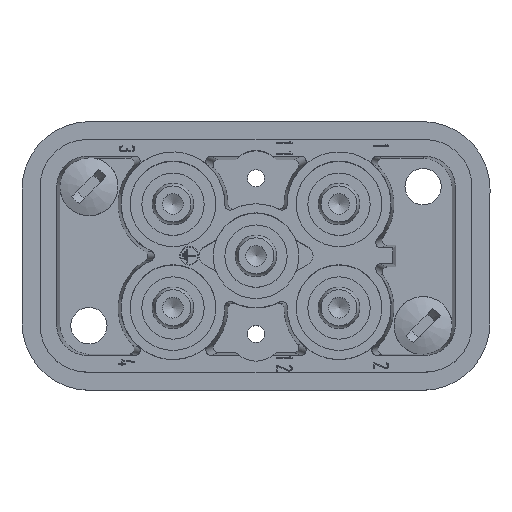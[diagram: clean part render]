
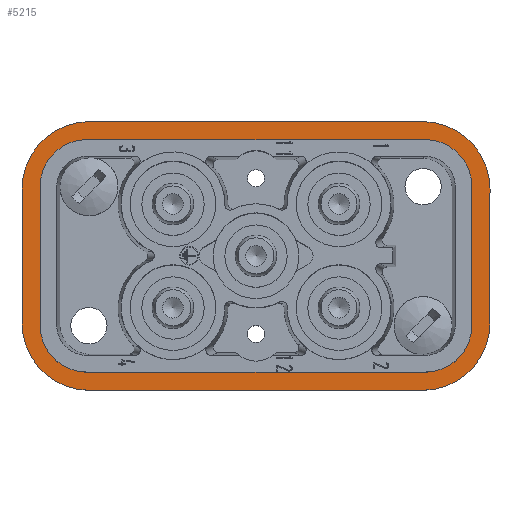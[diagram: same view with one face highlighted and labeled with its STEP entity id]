
A CAD part, top view. The second image highlights one B-rep face of the part: STEP entity #5215.
In plain terms, the highlighted planar face has unit normal (0, 0, 1).
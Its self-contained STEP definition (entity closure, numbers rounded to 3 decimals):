
#5215=ADVANCED_FACE('',(#5998,#5999),#5604,.F.);
#5604=PLANE('',#17857);
#5998=FACE_BOUND('',#6698,.T.);
#5999=FACE_BOUND('',#6699,.T.);
#6698=EDGE_LOOP('',(#9350,#9351,#9352,#9353,#9354,#9355,#9356,#9357));
#6699=EDGE_LOOP('',(#9358,#9359,#9360,#9361,#9362,#9363,#9364,#9365));
#9350=ORIENTED_EDGE('',*,*,#11117,.F.);
#9351=ORIENTED_EDGE('',*,*,#11103,.F.);
#9352=ORIENTED_EDGE('',*,*,#11124,.F.);
#9353=ORIENTED_EDGE('',*,*,#11130,.F.);
#9354=ORIENTED_EDGE('',*,*,#11136,.F.);
#9355=ORIENTED_EDGE('',*,*,#11152,.F.);
#9356=ORIENTED_EDGE('',*,*,#11111,.F.);
#9357=ORIENTED_EDGE('',*,*,#11140,.F.);
#9358=ORIENTED_EDGE('',*,*,#12308,.T.);
#9359=ORIENTED_EDGE('',*,*,#12309,.T.);
#9360=ORIENTED_EDGE('',*,*,#12310,.T.);
#9361=ORIENTED_EDGE('',*,*,#12311,.T.);
#9362=ORIENTED_EDGE('',*,*,#12312,.T.);
#9363=ORIENTED_EDGE('',*,*,#12313,.T.);
#9364=ORIENTED_EDGE('',*,*,#12314,.T.);
#9365=ORIENTED_EDGE('',*,*,#12315,.T.);
#10029=VERTEX_POINT('',#21683);
#10030=VERTEX_POINT('',#21685);
#10036=VERTEX_POINT('',#21700);
#10038=VERTEX_POINT('',#21703);
#10042=VERTEX_POINT('',#21715);
#10046=VERTEX_POINT('',#21727);
#10050=VERTEX_POINT('',#21739);
#10054=VERTEX_POINT('',#21751);
#10866=VERTEX_POINT('',#25808);
#10867=VERTEX_POINT('',#25809);
#10868=VERTEX_POINT('',#25811);
#10869=VERTEX_POINT('',#25813);
#10870=VERTEX_POINT('',#25815);
#10871=VERTEX_POINT('',#25817);
#10872=VERTEX_POINT('',#25819);
#10873=VERTEX_POINT('',#25821);
#11103=EDGE_CURVE('',#10029,#10030,#14029,.T.);
#11111=EDGE_CURVE('',#10036,#10038,#12969,.T.);
#11117=EDGE_CURVE('',#10030,#10042,#12973,.T.);
#11124=EDGE_CURVE('',#10046,#10029,#12977,.T.);
#11130=EDGE_CURVE('',#10050,#10046,#14044,.T.);
#11136=EDGE_CURVE('',#10054,#10050,#12981,.T.);
#11140=EDGE_CURVE('',#10042,#10036,#14050,.T.);
#11152=EDGE_CURVE('',#10038,#10054,#14062,.T.);
#12308=EDGE_CURVE('',#10866,#10867,#13251,.T.);
#12309=EDGE_CURVE('',#10867,#10868,#14705,.T.);
#12310=EDGE_CURVE('',#10868,#10869,#13252,.T.);
#12311=EDGE_CURVE('',#10869,#10870,#14706,.T.);
#12312=EDGE_CURVE('',#10870,#10871,#13253,.T.);
#12313=EDGE_CURVE('',#10871,#10872,#14707,.T.);
#12314=EDGE_CURVE('',#10872,#10873,#13254,.T.);
#12315=EDGE_CURVE('',#10873,#10866,#14708,.T.);
#12969=CIRCLE('',#17171,4.5);
#12973=CIRCLE('',#17177,4.5);
#12977=CIRCLE('',#17183,4.5);
#12981=CIRCLE('',#17191,4.5);
#13251=CIRCLE('',#17853,6.5);
#13252=CIRCLE('',#17854,6.5);
#13253=CIRCLE('',#17855,6.5);
#13254=CIRCLE('',#17856,6.5);
#14029=LINE('',#21684,#15103);
#14044=LINE('',#21741,#15118);
#14050=LINE('',#21759,#15124);
#14062=LINE('',#21781,#15136);
#14705=LINE('',#25810,#15859);
#14706=LINE('',#25814,#15860);
#14707=LINE('',#25818,#15861);
#14708=LINE('',#25822,#15862);
#15103=VECTOR('',#18265,1.);
#15118=VECTOR('',#18320,1.);
#15124=VECTOR('',#18342,1.);
#15136=VECTOR('',#18358,1.);
#15859=VECTOR('',#20395,1.);
#15860=VECTOR('',#20398,1.);
#15861=VECTOR('',#20401,1.);
#15862=VECTOR('',#20404,1.);
#17171=AXIS2_PLACEMENT_3D('',#21702,#18279,#18280);
#17177=AXIS2_PLACEMENT_3D('',#21714,#18293,#18294);
#17183=AXIS2_PLACEMENT_3D('',#21729,#18308,#18309);
#17191=AXIS2_PLACEMENT_3D('',#21753,#18332,#18333);
#17853=AXIS2_PLACEMENT_3D('',#25807,#20393,#20394);
#17854=AXIS2_PLACEMENT_3D('',#25812,#20396,#20397);
#17855=AXIS2_PLACEMENT_3D('',#25816,#20399,#20400);
#17856=AXIS2_PLACEMENT_3D('',#25820,#20402,#20403);
#17857=AXIS2_PLACEMENT_3D('',#25823,#20405,#20406);
#18265=DIRECTION('',(1.,0.,0.));
#18279=DIRECTION('',(0.,0.,1.));
#18280=DIRECTION('',(0.,1.,0.));
#18293=DIRECTION('',(0.,0.,1.));
#18294=DIRECTION('',(0.,1.,0.));
#18308=DIRECTION('',(0.,0.,1.));
#18309=DIRECTION('',(0.,1.,0.));
#18320=DIRECTION('',(0.,-1.,0.));
#18332=DIRECTION('',(0.,0.,1.));
#18333=DIRECTION('',(0.,1.,0.));
#18342=DIRECTION('',(0.,1.,0.));
#18358=DIRECTION('',(-1.,0.,0.));
#20393=DIRECTION('',(0.,0.,1.));
#20394=DIRECTION('',(0.,1.,0.));
#20395=DIRECTION('',(0.,-1.,0.));
#20396=DIRECTION('',(0.,0.,1.));
#20397=DIRECTION('',(-1.,0.,0.));
#20398=DIRECTION('',(1.,0.,0.));
#20399=DIRECTION('',(0.,0.,1.));
#20400=DIRECTION('',(0.,-1.,0.));
#20401=DIRECTION('',(0.,1.,0.));
#20402=DIRECTION('',(0.,0.,1.));
#20403=DIRECTION('',(1.,0.,0.));
#20404=DIRECTION('',(-1.,0.,0.));
#20405=DIRECTION('',(0.,0.,-1.));
#20406=DIRECTION('',(0.,1.,0.));
#21683=CARTESIAN_POINT('',(-16.3,-11.2,11.789));
#21684=CARTESIAN_POINT('',(-16.3,-11.2,11.789));
#21685=CARTESIAN_POINT('',(16.3,-11.2,11.789));
#21700=CARTESIAN_POINT('',(20.8,6.7,11.789));
#21702=CARTESIAN_POINT('',(16.3,6.7,11.789));
#21703=CARTESIAN_POINT('',(16.3,11.2,11.789));
#21714=CARTESIAN_POINT('',(16.3,-6.7,11.789));
#21715=CARTESIAN_POINT('',(20.8,-6.7,11.789));
#21727=CARTESIAN_POINT('',(-20.8,-6.7,11.789));
#21729=CARTESIAN_POINT('',(-16.3,-6.7,11.789));
#21739=CARTESIAN_POINT('',(-20.8,6.7,11.789));
#21741=CARTESIAN_POINT('',(-20.8,6.7,11.789));
#21751=CARTESIAN_POINT('',(-16.3,11.2,11.789));
#21753=CARTESIAN_POINT('',(-16.3,6.7,11.789));
#21759=CARTESIAN_POINT('',(20.8,-6.7,11.789));
#21781=CARTESIAN_POINT('',(16.4,11.2,11.789));
#25807=CARTESIAN_POINT('',(-16.05,6.45,11.789));
#25808=CARTESIAN_POINT('',(-16.05,12.95,11.789));
#25809=CARTESIAN_POINT('',(-22.55,6.45,11.789));
#25810=CARTESIAN_POINT('',(-22.55,6.45,11.789));
#25811=CARTESIAN_POINT('',(-22.55,-6.45,11.789));
#25812=CARTESIAN_POINT('',(-16.05,-6.45,11.789));
#25813=CARTESIAN_POINT('',(-16.05,-12.95,11.789));
#25814=CARTESIAN_POINT('',(-16.05,-12.95,11.789));
#25815=CARTESIAN_POINT('',(16.05,-12.95,11.789));
#25816=CARTESIAN_POINT('',(16.05,-6.45,11.789));
#25817=CARTESIAN_POINT('',(22.55,-6.45,11.789));
#25818=CARTESIAN_POINT('',(22.55,-6.45,11.789));
#25819=CARTESIAN_POINT('',(22.55,6.45,11.789));
#25820=CARTESIAN_POINT('',(16.05,6.45,11.789));
#25821=CARTESIAN_POINT('',(16.05,12.95,11.789));
#25822=CARTESIAN_POINT('',(16.05,12.95,11.789));
#25823=CARTESIAN_POINT('',(-16.05,6.45,11.789));
